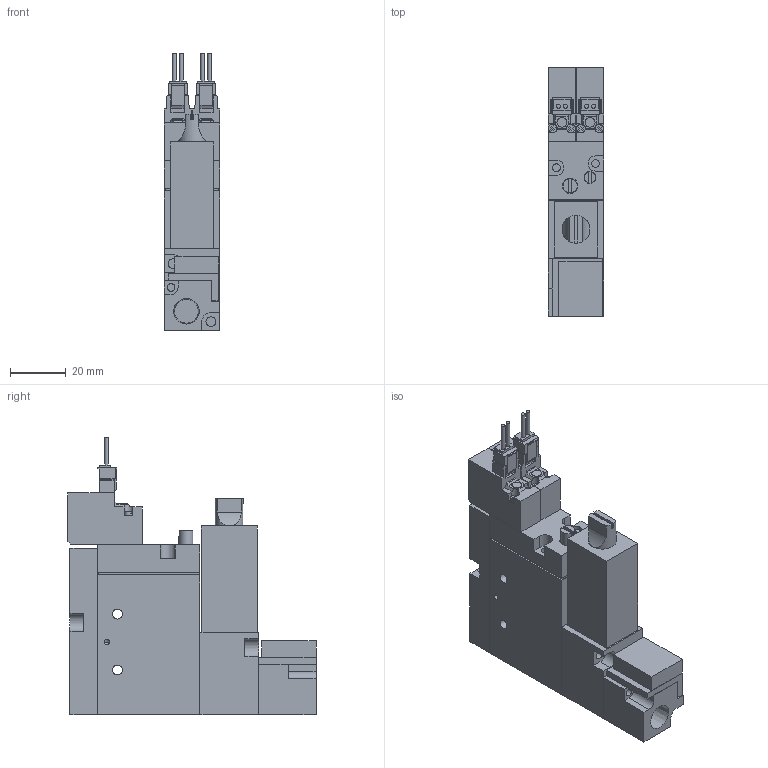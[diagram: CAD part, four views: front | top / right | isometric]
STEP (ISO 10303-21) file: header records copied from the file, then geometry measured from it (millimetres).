
FILE_DESCRIPTION(('STEP AP203'),'1');
FILE_NAME('BMPV32S2NZ25BL.stp','2025-06-17T01:57:59',(' '),(' '),'Spatial InterOp 3D',' ',' ');
FILE_SCHEMA(('CONFIG_CONTROL_DESIGN'));
Length unit declared in the file: millimetre
Products named in the file (14): BMPV32S2NZ25BL; S____; ___ ___2; ___-2(Rc); __ ___ (Rc); Filter Assy; __; _____; ___; upper plate-A; ______; ____; VACUUM VALVE FUNCTION MPV42-A
Assembly tree (13 placements, depth 2):
  BMPV32S2NZ25BL
    S____
    ___ ___2
    ___-2(Rc)
    __ ___ (Rc)
    Filter Assy
    __
    _____
    ___
    upper plate-A
    ______
    ____
    VACUUM VALVE FUNCTION MPV42-A
    VACUUM VALVE FUNCTION MPV42-A
Bounding box: 20 x 88.7 x 99.25 mm (x, y, z)
Volume: 95895.3 mm3; surface area: 34007.4 mm2
Topology: 13 solids, 13 shells, 348 faces, 915 edges, 609 vertices
Faces by surface type: plane 285, cylinder 55, cone 8
Full cylindrical faces by diameter (mm): 1.4 x4, 1.8 x2, 2 x2, 2.5 x2, 2.8 x4, 3 x4, 3.5 x10, 4 x1, 4.2 x1, 5 x1, 5.5 x1, 6.5 x1, 8.522 x1
Entity records: 11123 total; most frequent: CARTESIAN_POINT 1888, DIRECTION 1725, ORIENTED_EDGE 1710, EDGE_CURVE 855, LINE 701, VECTOR 701, VERTEX_POINT 597, AXIS2_PLACEMENT_3D 512
